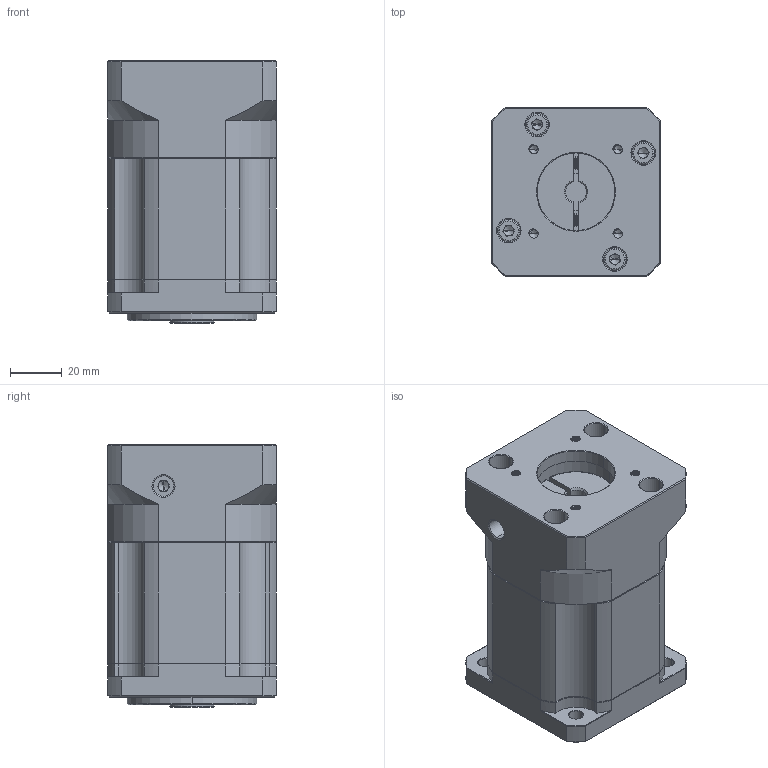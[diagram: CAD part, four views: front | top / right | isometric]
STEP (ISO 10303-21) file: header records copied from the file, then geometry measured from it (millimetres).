
FILE_DESCRIPTION (( 'STEP AP214' ), '1' );
FILE_NAME ('ZB060-K10-L2-P2-8-30-46-M4.step', '2023-08-16T07:12:06', ( '' ), ( '' ), 'SwSTEP 2.0', 'SolidWorks 2016', '' );
FILE_SCHEMA (( 'AUTOMOTIVE_DESIGN' ));
Length unit declared in the file: millimetre
Products named in the file (1): ZB060-K10-L2-P2-8-30-46-M4
Bounding box: 65 x 65 x 101.5 mm (x, y, z)
Volume: 329766.6 mm3; surface area: 57943.7 mm2
Topology: 6 solids, 6 shells, 2101 faces, 5654 edges, 3644 vertices
Faces by surface type: plane 1056, bspline 390, cylinder 342, cone 279, torus 34
Entity records: 108962 total; most frequent: CARTESIAN_POINT 35964, ORIENTED_EDGE 11252, DIRECTION 8948, EDGE_CURVE 5626, VERTEX_POINT 3644, VECTOR 3584, LINE 3584, AXIS2_PLACEMENT_3D 2682
